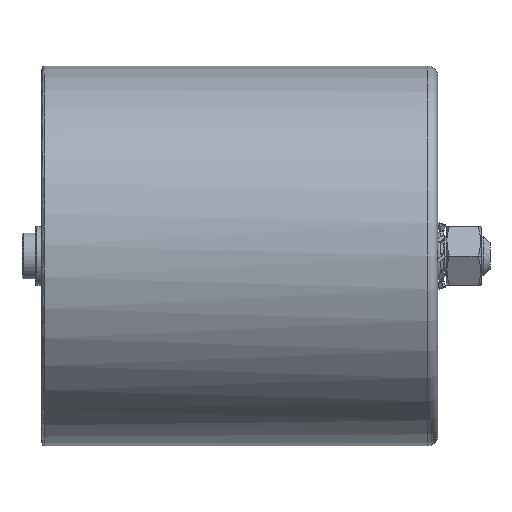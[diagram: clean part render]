
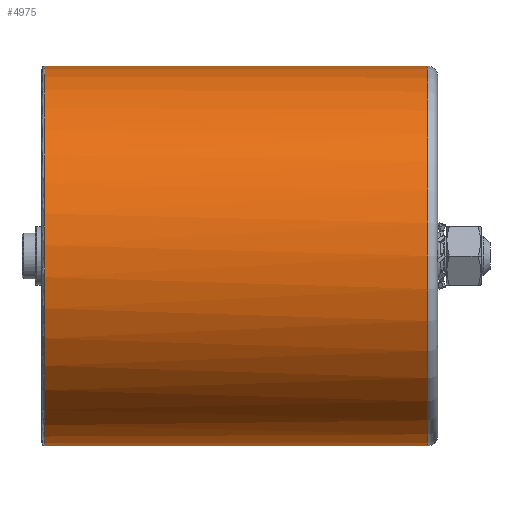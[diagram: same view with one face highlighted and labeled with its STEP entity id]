
A CAD part, left-side view. The second image highlights one B-rep face of the part: STEP entity #4975.
In plain terms, the highlighted cylindrical face has radius 58 mm (diameter 116 mm), a partial arc.
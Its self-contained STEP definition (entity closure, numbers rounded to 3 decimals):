
#36 = DIRECTION ( 'NONE',  ( 0., -1., 0. ) ) ;
#101 = CARTESIAN_POINT ( 'NONE',  ( 0., 120., 0. ) ) ;
#237 = LINE ( 'NONE', #11935, #5574 ) ;
#305 = DIRECTION ( 'NONE',  ( 0., -1., 0. ) ) ;
#360 = EDGE_CURVE ( 'NONE', #9450, #11044, #7045, .T. ) ;
#372 = EDGE_LOOP ( 'NONE', ( #4990, #11175, #7046, #7487, #1625 ) ) ;
#400 = CARTESIAN_POINT ( 'NONE',  ( 0., 3., 0. ) ) ;
#893 = DIRECTION ( 'NONE',  ( 0., 0., -1. ) ) ;
#1009 = FACE_OUTER_BOUND ( 'NONE', #372, .T. ) ;
#1010 = LINE ( 'NONE', #11517, #3521 ) ;
#1063 = CARTESIAN_POINT ( 'NONE',  ( 0., 120., 58. ) ) ;
#1202 = EDGE_CURVE ( 'NONE', #12511, #7340, #5512, .T. ) ;
#1514 = AXIS2_PLACEMENT_3D ( 'NONE', #400, #8969, #10054 ) ;
#1625 = ORIENTED_EDGE ( 'NONE', *, *, #360, .T. ) ;
#2040 = AXIS2_PLACEMENT_3D ( 'NONE', #9313, #5287, #9178 ) ;
#2745 = DIRECTION ( 'NONE',  ( 0., -1., 0. ) ) ;
#2922 = EDGE_CURVE ( 'NONE', #3676, #12511, #10033, .T. ) ;
#3521 = VECTOR ( 'NONE', #2745, 1000. ) ;
#3676 = VERTEX_POINT ( 'NONE', #1063 ) ;
#3960 = EDGE_CURVE ( 'NONE', #3676, #11044, #237, .T. ) ;
#4523 = AXIS2_PLACEMENT_3D ( 'NONE', #101, #36, #7720 ) ;
#4928 = DIRECTION ( 'NONE',  ( 0., -1., 0. ) ) ;
#4975 = ADVANCED_FACE ( 'NONE', ( #1009 ), #6721, .T. ) ;
#4990 = ORIENTED_EDGE ( 'NONE', *, *, #3960, .F. ) ;
#5287 = DIRECTION ( 'NONE',  ( 0., -1., 0. ) ) ;
#5512 = CIRCLE ( 'NONE', #2040, 58. ) ;
#5542 = CARTESIAN_POINT ( 'NONE',  ( 0., 3., 58. ) ) ;
#5574 = VECTOR ( 'NONE', #305, 1000. ) ;
#5715 = CARTESIAN_POINT ( 'NONE',  ( 0., 120., -58. ) ) ;
#5913 = EDGE_CURVE ( 'NONE', #7340, #9450, #1010, .T. ) ;
#6206 = AXIS2_PLACEMENT_3D ( 'NONE', #9653, #4928, #893 ) ;
#6721 = CYLINDRICAL_SURFACE ( 'NONE', #6206, 58. ) ;
#7045 = CIRCLE ( 'NONE', #1514, 58. ) ;
#7046 = ORIENTED_EDGE ( 'NONE', *, *, #1202, .T. ) ;
#7340 = VERTEX_POINT ( 'NONE', #5715 ) ;
#7487 = ORIENTED_EDGE ( 'NONE', *, *, #5913, .T. ) ;
#7720 = DIRECTION ( 'NONE',  ( -0.707, 0., -0.707 ) ) ;
#8969 = DIRECTION ( 'NONE',  ( 0., 1., 0. ) ) ;
#9178 = DIRECTION ( 'NONE',  ( -0.707, 0., -0.707 ) ) ;
#9313 = CARTESIAN_POINT ( 'NONE',  ( 0., 120., 0. ) ) ;
#9450 = VERTEX_POINT ( 'NONE', #11555 ) ;
#9653 = CARTESIAN_POINT ( 'NONE',  ( 0., 111., 0. ) ) ;
#10033 = CIRCLE ( 'NONE', #4523, 58. ) ;
#10054 = DIRECTION ( 'NONE',  ( 0., 0., 1. ) ) ;
#10251 = CARTESIAN_POINT ( 'NONE',  ( -41.012, 120., -41.012 ) ) ;
#11044 = VERTEX_POINT ( 'NONE', #5542 ) ;
#11175 = ORIENTED_EDGE ( 'NONE', *, *, #2922, .T. ) ;
#11517 = CARTESIAN_POINT ( 'NONE',  ( 0., 111., -58. ) ) ;
#11555 = CARTESIAN_POINT ( 'NONE',  ( 0., 3., -58. ) ) ;
#11935 = CARTESIAN_POINT ( 'NONE',  ( 0., 111., 58. ) ) ;
#12511 = VERTEX_POINT ( 'NONE', #10251 ) ;
